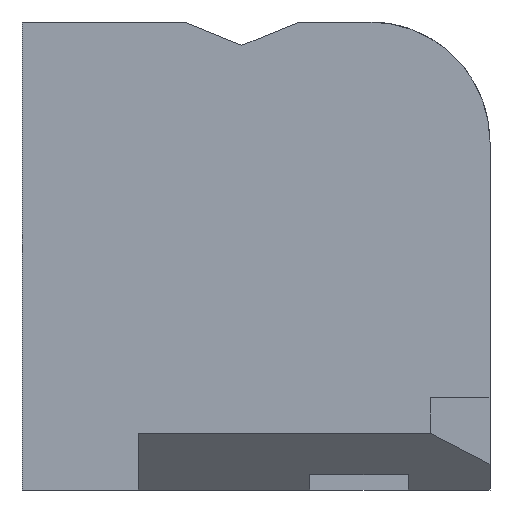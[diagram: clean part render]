
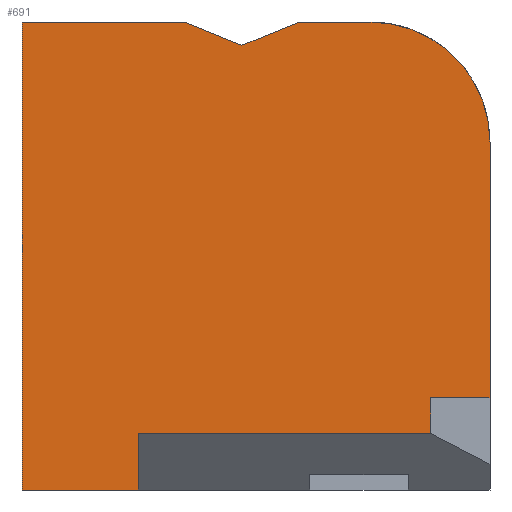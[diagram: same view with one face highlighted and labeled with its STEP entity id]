
A CAD part, left-side view. The second image highlights one B-rep face of the part: STEP entity #691.
In plain terms, the highlighted planar face has unit normal (-1, 0, 0).
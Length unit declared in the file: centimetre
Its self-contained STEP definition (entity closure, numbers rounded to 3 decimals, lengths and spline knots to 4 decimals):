
#5 = CARTESIAN_POINT ( 'NONE',  ( 0., 127.0735, 197.2409 ) ) ;
#6 = DIRECTION ( 'NONE',  ( 0., 1., 0. ) ) ;
#16 = VERTEX_POINT ( 'NONE', #714 ) ;
#20 = EDGE_CURVE ( 'NONE', #688, #332, #854, .T. ) ;
#24 = VERTEX_POINT ( 'NONE', #632 ) ;
#42 = CARTESIAN_POINT ( 'NONE',  ( 0., 127.0735, 197.2409 ) ) ;
#45 = EDGE_CURVE ( 'NONE', #532, #806, #520, .T. ) ;
#50 = VECTOR ( 'NONE', #467, 100. ) ;
#52 = ORIENTED_EDGE ( 'NONE', *, *, #487, .F. ) ;
#54 = ORIENTED_EDGE ( 'NONE', *, *, #484, .T. ) ;
#60 = VERTEX_POINT ( 'NONE', #704 ) ;
#63 = DIRECTION ( 'NONE',  ( 0., 0.927, -0.376 ) ) ;
#67 = VECTOR ( 'NONE', #628, 100. ) ;
#68 = VECTOR ( 'NONE', #424, 100. ) ;
#73 = CARTESIAN_POINT ( 'NONE',  ( 0., 530.1876, 950. ) ) ;
#105 = DIRECTION ( 'NONE',  ( 1., 0., 0. ) ) ;
#114 = CARTESIAN_POINT ( 'NONE',  ( 0., 1000., 1000. ) ) ;
#119 = ORIENTED_EDGE ( 'NONE', *, *, #871, .T. ) ;
#121 = ORIENTED_EDGE ( 'NONE', *, *, #512, .F. ) ;
#130 = CARTESIAN_POINT ( 'NONE',  ( 0., 751.6212, 120.9838 ) ) ;
#170 = ORIENTED_EDGE ( 'NONE', *, *, #20, .F. ) ;
#197 = LINE ( 'NONE', #729, #759 ) ;
#200 = ORIENTED_EDGE ( 'NONE', *, *, #526, .T. ) ;
#206 = VERTEX_POINT ( 'NONE', #779 ) ;
#232 = ORIENTED_EDGE ( 'NONE', *, *, #45, .T. ) ;
#233 = CARTESIAN_POINT ( 'NONE',  ( 0., 1000., 1000. ) ) ;
#234 = ORIENTED_EDGE ( 'NONE', *, *, #297, .T. ) ;
#238 = CARTESIAN_POINT ( 'NONE',  ( 0., 653.4647, 1000. ) ) ;
#253 = AXIS2_PLACEMENT_3D ( 'NONE', #850, #698, #631 ) ;
#275 = LINE ( 'NONE', #662, #376 ) ;
#294 = VECTOR ( 'NONE', #454, 100. ) ;
#297 = EDGE_CURVE ( 'NONE', #60, #332, #482, .T. ) ;
#328 = EDGE_CURVE ( 'NONE', #608, #206, #436, .T. ) ;
#330 = CARTESIAN_POINT ( 'NONE',  ( 0., 751.6212, 0. ) ) ;
#332 = VERTEX_POINT ( 'NONE', #238 ) ;
#335 = LINE ( 'NONE', #330, #433 ) ;
#339 = ORIENTED_EDGE ( 'NONE', *, *, #811, .F. ) ;
#352 = LINE ( 'NONE', #480, #605 ) ;
#376 = VECTOR ( 'NONE', #822, 100. ) ;
#381 = ORIENTED_EDGE ( 'NONE', *, *, #328, .F. ) ;
#391 = LINE ( 'NONE', #130, #50 ) ;
#399 = VERTEX_POINT ( 'NONE', #705 ) ;
#424 = DIRECTION ( 'NONE',  ( 0., 0., -1. ) ) ;
#433 = VECTOR ( 'NONE', #882, 100. ) ;
#436 = LINE ( 'NONE', #42, #67 ) ;
#442 = PLANE ( 'NONE',  #835 ) ;
#454 = DIRECTION ( 'NONE',  ( 0., 0.927, 0.376 ) ) ;
#467 = DIRECTION ( 'NONE',  ( 0., -1., 0. ) ) ;
#475 = LINE ( 'NONE', #815, #771 ) ;
#480 = CARTESIAN_POINT ( 'NONE',  ( 0., 1000., 0. ) ) ;
#482 = LINE ( 'NONE', #73, #294 ) ;
#484 = EDGE_CURVE ( 'NONE', #16, #60, #197, .T. ) ;
#487 = EDGE_CURVE ( 'NONE', #743, #612, #335, .T. ) ;
#491 = ORIENTED_EDGE ( 'NONE', *, *, #831, .F. ) ;
#493 = DIRECTION ( 'NONE',  ( 0., 0., -1. ) ) ;
#512 = EDGE_CURVE ( 'NONE', #24, #608, #808, .T. ) ;
#520 = CIRCLE ( 'NONE', #253, 256.5525 ) ;
#526 = EDGE_CURVE ( 'NONE', #743, #206, #391, .T. ) ;
#532 = VERTEX_POINT ( 'NONE', #789 ) ;
#548 = CARTESIAN_POINT ( 'NONE',  ( 0., 751.6212, 0. ) ) ;
#555 = CARTESIAN_POINT ( 'NONE',  ( 0., 256.5525, 1000. ) ) ;
#576 = FACE_OUTER_BOUND ( 'NONE', #669, .T. ) ;
#578 = DIRECTION ( 'NONE',  ( 0., -1., 0. ) ) ;
#605 = VECTOR ( 'NONE', #675, 100. ) ;
#608 = VERTEX_POINT ( 'NONE', #5 ) ;
#612 = VERTEX_POINT ( 'NONE', #548 ) ;
#628 = DIRECTION ( 'NONE',  ( 0., 0., -1. ) ) ;
#631 = DIRECTION ( 'NONE',  ( 0., 0., -1. ) ) ;
#632 = CARTESIAN_POINT ( 'NONE',  ( 0., 0., 197.2409 ) ) ;
#640 = DIRECTION ( 'NONE',  ( 0., 0., -1. ) ) ;
#662 = CARTESIAN_POINT ( 'NONE',  ( 0., 1000., 1000. ) ) ;
#669 = EDGE_LOOP ( 'NONE', ( #200, #381, #121, #491, #232, #339, #54, #234, #170, #119, #727, #52 ) ) ;
#675 = DIRECTION ( 'NONE',  ( 0., -1., 0. ) ) ;
#688 = VERTEX_POINT ( 'NONE', #791 ) ;
#691 = ADVANCED_FACE ( 'NONE', ( #576 ), #442, .F. ) ;
#698 = DIRECTION ( 'NONE',  ( -1., 0., 0. ) ) ;
#704 = CARTESIAN_POINT ( 'NONE',  ( 0., 530.1876, 950. ) ) ;
#705 = CARTESIAN_POINT ( 'NONE',  ( 0., 1000., 0. ) ) ;
#707 = CARTESIAN_POINT ( 'NONE',  ( 0., 1000., 1000. ) ) ;
#714 = CARTESIAN_POINT ( 'NONE',  ( 0., 406.9106, 1000. ) ) ;
#727 = ORIENTED_EDGE ( 'NONE', *, *, #740, .T. ) ;
#729 = CARTESIAN_POINT ( 'NONE',  ( 0., 406.9106, 1000. ) ) ;
#734 = CARTESIAN_POINT ( 'NONE',  ( 0., 0., 197.2409 ) ) ;
#735 = CARTESIAN_POINT ( 'NONE',  ( 0., 751.6212, 120.9838 ) ) ;
#740 = EDGE_CURVE ( 'NONE', #399, #612, #352, .T. ) ;
#743 = VERTEX_POINT ( 'NONE', #735 ) ;
#759 = VECTOR ( 'NONE', #63, 100. ) ;
#768 = LINE ( 'NONE', #233, #68 ) ;
#771 = VECTOR ( 'NONE', #493, 100. ) ;
#779 = CARTESIAN_POINT ( 'NONE',  ( 0., 127.0735, 120.9838 ) ) ;
#786 = VECTOR ( 'NONE', #6, 100. ) ;
#789 = CARTESIAN_POINT ( 'NONE',  ( 0., 0., 743.4475 ) ) ;
#791 = CARTESIAN_POINT ( 'NONE',  ( 0., 1000., 1000. ) ) ;
#806 = VERTEX_POINT ( 'NONE', #555 ) ;
#808 = LINE ( 'NONE', #734, #786 ) ;
#811 = EDGE_CURVE ( 'NONE', #16, #806, #275, .T. ) ;
#815 = CARTESIAN_POINT ( 'NONE',  ( 0., 0., 1000. ) ) ;
#822 = DIRECTION ( 'NONE',  ( 0., -1., 0. ) ) ;
#831 = EDGE_CURVE ( 'NONE', #532, #24, #475, .T. ) ;
#835 = AXIS2_PLACEMENT_3D ( 'NONE', #707, #105, #640 ) ;
#847 = VECTOR ( 'NONE', #578, 100. ) ;
#850 = CARTESIAN_POINT ( 'NONE',  ( 0., 256.5525, 743.4475 ) ) ;
#854 = LINE ( 'NONE', #114, #847 ) ;
#871 = EDGE_CURVE ( 'NONE', #688, #399, #768, .T. ) ;
#882 = DIRECTION ( 'NONE',  ( 0., 0., -1. ) ) ;
